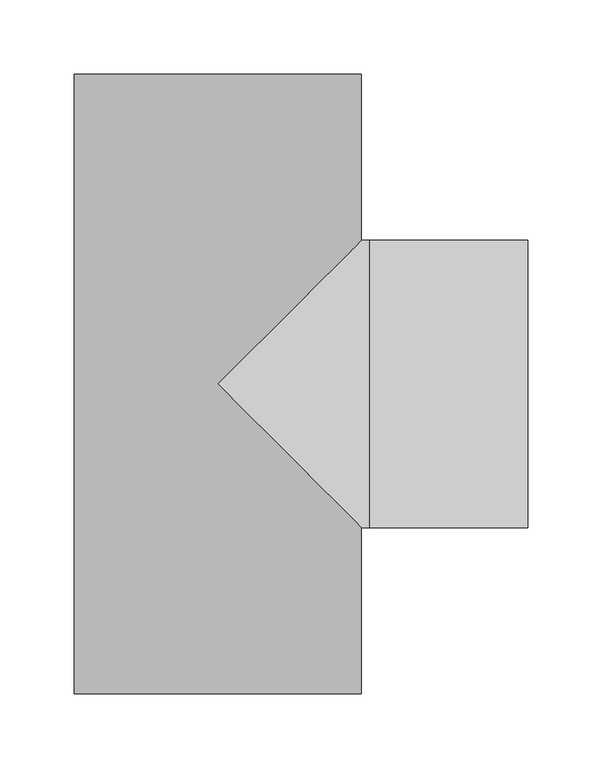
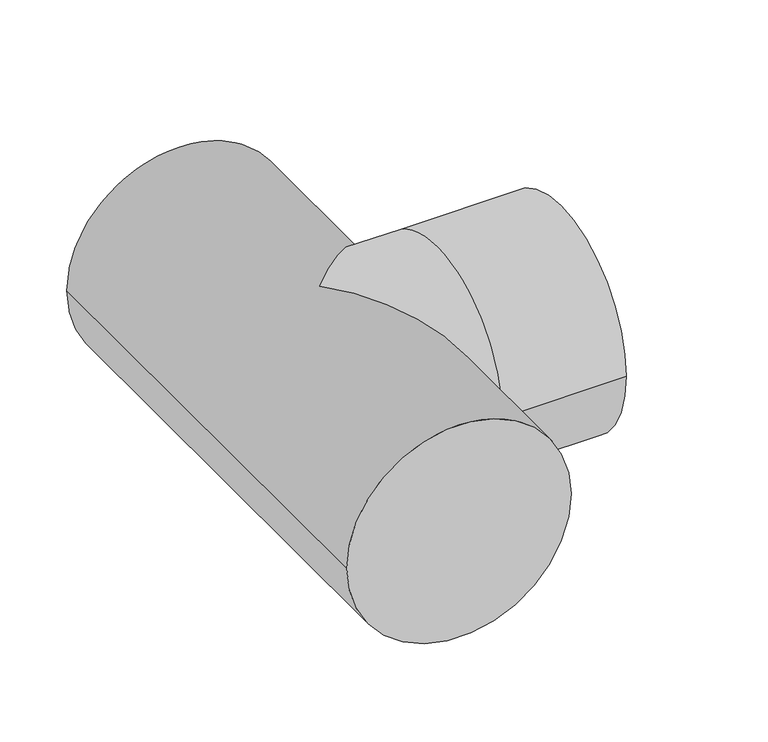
"""IFC4 building model written with IfcOpenShell, lengths in millimetres: pipe fitting geometry, 01051003 : Tê a 90º."""

from ifc_helpers import new_model, si_unit, frame, origin, place, context, project, spatial, circle_curve, ellipse_curve, source, transform, mapped, element, save
from ifc_brep_helpers import plane_surface, cylinder_surface, advanced_brep


def pipe_fitting_c0e5bb27(model_context):
    return source(origin(), model_context, "Body", "AdvancedBrep", [
        advanced_brep(
        [(-96.9, 209.0, 0.0), (96.9, 209.0, 0.0), (-96.9, -209.0, 0.0), (96.9, -209.0, 0.0), (96.9, -96.9, 0.0), (0.0, 0.0, 96.9), (96.9, 96.9, 0.0), (0.0, 0.0, -96.9), (209.0, 96.9, 0.0), (209.0, -96.9, 0.0), (102.0, -96.9, 0.0), (102.0, 96.9, 0.0)],
        [
            (0, 1, circle_curve(frame((0.0, 209.0, 0.0), z_axis=(0.0, 1.0, 0.0), x_axis=(1.0, 0.0, 0.0)), 96.9)),
            (1, 0, circle_curve(frame((0.0, 209.0, 0.0), z_axis=(0.0, 1.0, 0.0), x_axis=(1.0, 0.0, 0.0)), 96.9)),
            (2, 3, circle_curve(frame((0.0, -209.0, 0.0), z_axis=(0.0, -1.0, 0.0), x_axis=(1.0, 0.0, 0.0)), 96.9)),
            (3, 2, circle_curve(frame((0.0, -209.0, 0.0), z_axis=(0.0, -1.0, 0.0), x_axis=(1.0, 0.0, 0.0)), 96.9)),
            (0, 2),
            (3, 4),
            (4, 5, ellipse_curve(frame((0.0, 0.0, 0.0), z_axis=(-0.7071067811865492, -0.7071067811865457, 0.0), x_axis=(-0.7071067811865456, 0.7071067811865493, 0.0)), 137.0372942, 96.9)),
            (5, 6, ellipse_curve(frame((0.0, 0.0, 0.0), z_axis=(-0.7071067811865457, 0.7071067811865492, 0.0), x_axis=(0.7071067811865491, 0.7071067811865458, 0.0)), 137.0372942, 96.9)),
            (6, 1),
            (6, 7, ellipse_curve(frame((0.0, 0.0, 0.0), z_axis=(-0.7071067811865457, 0.7071067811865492, 0.0), x_axis=(0.7071067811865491, 0.7071067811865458, 0.0)), 137.0372942, 96.9)),
            (7, 4, ellipse_curve(frame((0.0, 0.0, 0.0), z_axis=(-0.7071067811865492, -0.7071067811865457, 0.0), x_axis=(-0.7071067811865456, 0.7071067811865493, 0.0)), 137.0372942, 96.9)),
            (8, 9, circle_curve(frame((209.0, 0.0, 0.0), z_axis=(1.0, 0.0, 0.0), x_axis=(0.0, -1.0, 0.0)), 96.9)),
            (9, 8, circle_curve(frame((209.0, 0.0, 0.0), z_axis=(1.0, 0.0, 0.0), x_axis=(0.0, -1.0, 0.0)), 96.9)),
            (10, 11, circle_curve(frame((102.0, 0.0, 0.0), z_axis=(-1.0, 0.0, 0.0), x_axis=(0.0, -1.0, 0.0)), 96.9)),
            (11, 6),
            (4, 10),
            (11, 10, circle_curve(frame((102.0, 0.0, 0.0), z_axis=(-1.0, 0.0, 0.0), x_axis=(0.0, -1.0, 0.0)), 96.9)),
            (8, 11),
            (10, 9),
        ],
        [
            plane_surface(frame((0.0, 209.0, 0.0), z_axis=(0.0, 1.0, 0.0), x_axis=(0.0, 0.0, 1.0))),
            plane_surface(frame((0.0, -209.0, 0.0), z_axis=(0.0, -1.0, 0.0), x_axis=(0.0, 0.0, 1.0))),
            cylinder_surface(frame((0.0, 209.0, 0.0), z_axis=(0.0, 1.0, 0.0), x_axis=(1.0, 0.0, 0.0)), 96.9),
            plane_surface(frame((209.0, 0.0, 0.0), z_axis=(1.0, 0.0, 0.0), x_axis=(0.0, 0.0, 1.0))),
            cylinder_surface(frame((102.0, 0.0, 0.0), z_axis=(1.0, 0.0, 0.0), x_axis=(0.0, -1.0, 0.0)), 96.9),
            cylinder_surface(frame((209.0, 0.0, 0.0), z_axis=(1.0, 0.0, 0.0), x_axis=(0.0, -1.0, 0.0)), 96.9),
        ],
        [
            (0, [[1, 2]]),
            (1, [[3, 4]]),
            (2, [[-1, 5, -4, 6, 7, 8, 9]]),
            (2, [[-2, -9, 10, 11, -6, -3, -5]]),
            (3, [[12, 13]]),
            (4, [[14, 15, -8, -7, 16]]),
            (4, [[17, -16, -11, -10, -15]]),
            (5, [[-12, 18, -14, 19]]),
            (5, [[-13, -19, -17, -18]]),
        ],
    ),
    ])


if __name__ == "__main__":
    model = new_model("IFC4")
    model_context = context("Model", 3, world=origin())
    ifc_project = project(units=[si_unit("LENGTHUNIT", "METRE", prefix="MILLI")], contexts=[model_context])
    site = spatial("IfcSite", under=ifc_project)
    building = spatial("IfcBuilding", under=site)
    placement = place(None, origin())
    pipe_fitting_shape = pipe_fitting_c0e5bb27(model_context)
    element("IfcPipeFitting", 1, ObjectType="01051003 : Tê a 90º", at=placement, inside=building, context=model_context, shape_type="MappedRepresentation", body=[
        mapped(pipe_fitting_shape, transform((0.0, 0.0, 0.0), x_axis=(1.0, 0.0, 0.0), y_axis=(0.0, 1.0, 0.0), z_axis=(0.0, 0.0, 1.0))),
    ])
    save(model, "model.ifc")
